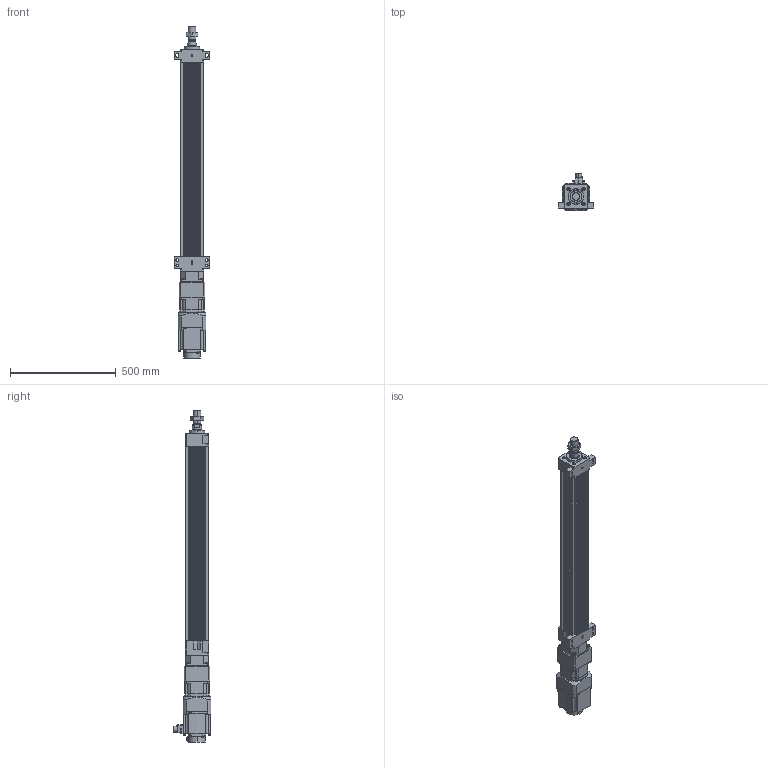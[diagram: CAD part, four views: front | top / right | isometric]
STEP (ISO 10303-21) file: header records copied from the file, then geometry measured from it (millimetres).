
FILE_DESCRIPTION (( 'STEP AP203' ), '1' );
FILE_NAME ('HES110NS(HS)-S750-W015G00-M-FFB.STEP', '2023-01-27T12:25:17', ( 'tms' ), ( '' ), 'SwSTEP 2.0', 'SolidWorks 2013', '' );
FILE_SCHEMA (( 'CONFIG_CONTROL_DESIGN' ));
Length unit declared in the file: millimetre
Products named in the file (8): HG-SR152; HES110 ROD M ST750; AB1151; HES110-S750-G120-FFB; HES110NS(HS)-S750-W015G00-M-FFB; M36X1.5P; AB115-003[HG-SR152]; P0401400706
Assembly tree (7 placements, depth 3):
  HES110NS(HS)-S750-W015G00-M-FFB
    HES110-S750-G120-FFB
    HES110 ROD M ST750
    M36X1.5P
    AB115-003[HG-SR152]
      AB1151
      P0401400706
    HG-SR152
Bounding box: 170 x 177.49 x 1571.5 mm (x, y, z)
Volume: 10081491.2 mm3; surface area: 1452915.7 mm2
Topology: 4 solids, 15 shells, 1194 faces, 3023 edges, 1968 vertices
Faces by surface type: plane 571, cylinder 531, cone 80, bspline 8, torus 4
Entity records: 37745 total; most frequent: CARTESIAN_POINT 7162, DIRECTION 6520, ORIENTED_EDGE 5998, EDGE_CURVE 3009, AXIS2_PLACEMENT_3D 2386, VERTEX_POINT 1968, LINE 1748, VECTOR 1748
